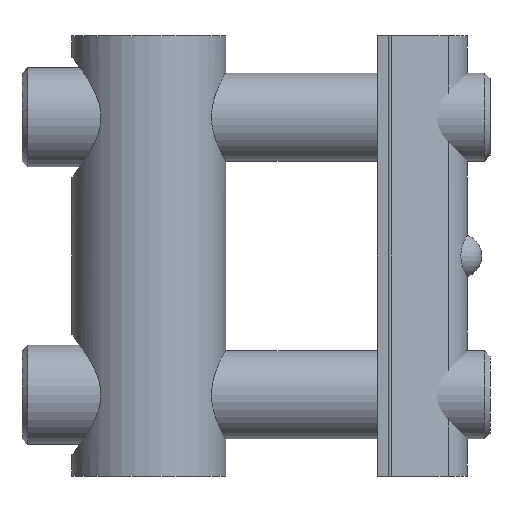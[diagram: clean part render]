
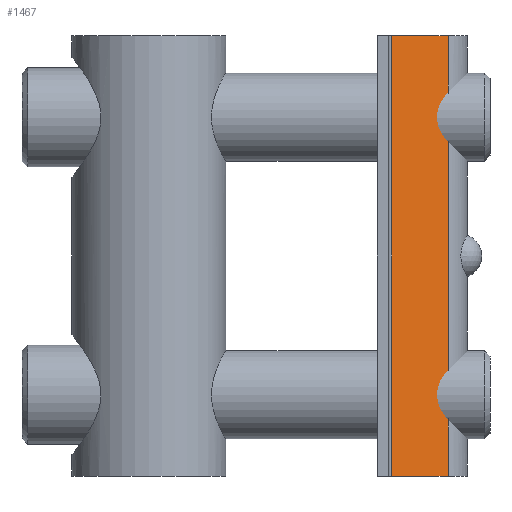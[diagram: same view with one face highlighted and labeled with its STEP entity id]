
A CAD part, left-side view. The second image highlights one B-rep face of the part: STEP entity #1467.
In plain terms, the highlighted planar face has unit normal (-0.828, -0.561, 0).
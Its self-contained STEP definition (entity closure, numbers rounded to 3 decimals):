
#753=CARTESIAN_POINT('',(3.689,-11.355,32.317));
#754=VERTEX_POINT('',#753);
#755=CARTESIAN_POINT('',(3.689,-11.355,32.883));
#756=VERTEX_POINT('',#755);
#757=CARTESIAN_POINT('',(7.0,-16.242,32.6));
#758=DIRECTION('',(0.828,0.561,0.0));
#759=DIRECTION('',(0.561,-0.828,0.0));
#760=AXIS2_PLACEMENT_3D('',#757,#758,#759);
#761=ELLIPSE('',#760,5.925,3.324);
#762=EDGE_CURVE('',#754,#756,#761,.T.);
#889=CARTESIAN_POINT('',(3.689,-11.355,7.117));
#890=VERTEX_POINT('',#889);
#891=CARTESIAN_POINT('',(3.689,-11.355,7.683));
#892=VERTEX_POINT('',#891);
#893=CARTESIAN_POINT('',(7.0,-16.242,7.4));
#894=DIRECTION('',(0.828,0.561,0.0));
#895=DIRECTION('',(0.561,-0.828,0.0));
#896=AXIS2_PLACEMENT_3D('',#893,#894,#895);
#897=ELLIPSE('',#896,5.925,3.324);
#898=EDGE_CURVE('',#890,#892,#897,.T.);
#1059=CARTESIAN_POINT('',(3.689,-11.355,0.0));
#1060=VERTEX_POINT('',#1059);
#1061=CARTESIAN_POINT('',(3.689,-11.355,0.0));
#1062=DIRECTION('',(0.0,0.0,1.0));
#1063=VECTOR('',#1062,7.117);
#1064=LINE('',#1061,#1063);
#1065=EDGE_CURVE('',#1060,#890,#1064,.T.);
#1084=CARTESIAN_POINT('',(3.689,-11.355,7.683));
#1085=DIRECTION('',(0.0,0.0,1.0));
#1086=VECTOR('',#1085,24.634);
#1087=LINE('',#1084,#1086);
#1088=EDGE_CURVE('',#892,#754,#1087,.T.);
#1392=CARTESIAN_POINT('',(0.212,-6.223,0.0));
#1393=VERTEX_POINT('',#1392);
#1394=CARTESIAN_POINT('',(0.212,-6.223,0.0));
#1395=DIRECTION('',(0.561,-0.828,0.0));
#1396=VECTOR('',#1395,6.199);
#1397=LINE('',#1394,#1396);
#1398=EDGE_CURVE('',#1393,#1060,#1397,.T.);
#1420=CARTESIAN_POINT('',(0.212,-6.223,40.0));
#1421=VERTEX_POINT('',#1420);
#1431=CARTESIAN_POINT('',(0.212,-6.223,0.0));
#1432=DIRECTION('',(0.0,0.0,1.0));
#1433=VECTOR('',#1432,40.0);
#1434=LINE('',#1431,#1433);
#1435=EDGE_CURVE('',#1393,#1421,#1434,.T.);
#1440=CARTESIAN_POINT('',(3.689,-11.355,0.0));
#1441=DIRECTION('',(-0.828,-0.561,0.0));
#1442=DIRECTION('',(0.0,0.0,1.0));
#1443=AXIS2_PLACEMENT_3D('',#1440,#1441,#1442);
#1444=PLANE('',#1443);
#1445=ORIENTED_EDGE('',*,*,#762,.T.);
#1446=CARTESIAN_POINT('',(3.689,-11.355,40.0));
#1447=VERTEX_POINT('',#1446);
#1448=CARTESIAN_POINT('',(3.689,-11.355,32.883));
#1449=DIRECTION('',(0.0,0.0,1.0));
#1450=VECTOR('',#1449,7.117);
#1451=LINE('',#1448,#1450);
#1452=EDGE_CURVE('',#756,#1447,#1451,.T.);
#1453=ORIENTED_EDGE('',*,*,#1452,.T.);
#1454=CARTESIAN_POINT('',(3.689,-11.355,40.0));
#1455=DIRECTION('',(-0.561,0.828,0.0));
#1456=VECTOR('',#1455,6.199);
#1457=LINE('',#1454,#1456);
#1458=EDGE_CURVE('',#1447,#1421,#1457,.T.);
#1459=ORIENTED_EDGE('',*,*,#1458,.T.);
#1460=ORIENTED_EDGE('',*,*,#1435,.F.);
#1461=ORIENTED_EDGE('',*,*,#1398,.T.);
#1462=ORIENTED_EDGE('',*,*,#1065,.T.);
#1463=ORIENTED_EDGE('',*,*,#898,.T.);
#1464=ORIENTED_EDGE('',*,*,#1088,.T.);
#1465=EDGE_LOOP('',(#1445,#1453,#1459,#1460,#1461,#1462,#1463,#1464));
#1466=FACE_OUTER_BOUND('',#1465,.T.);
#1467=ADVANCED_FACE('',(#1466),#1444,.T.);
